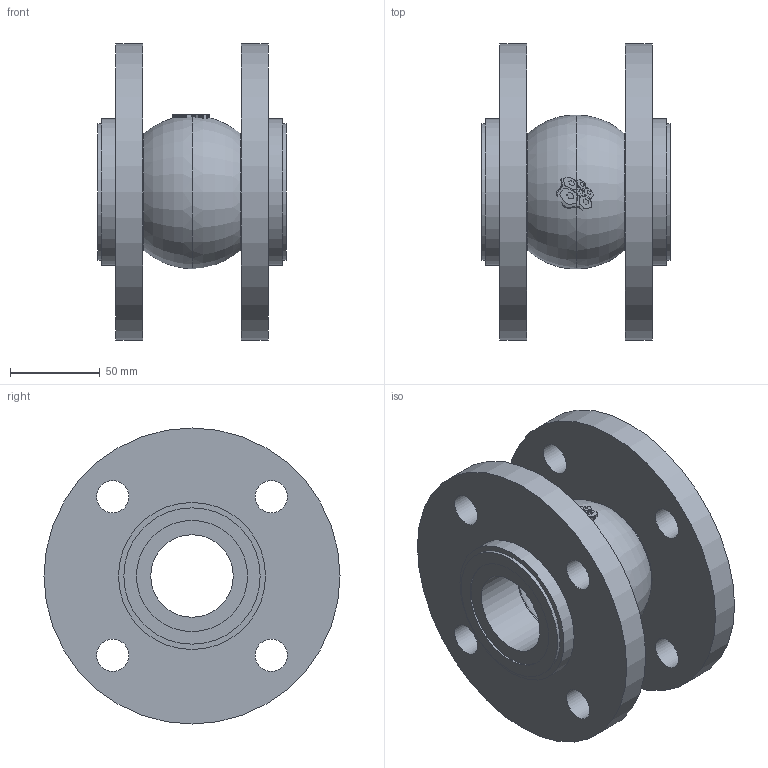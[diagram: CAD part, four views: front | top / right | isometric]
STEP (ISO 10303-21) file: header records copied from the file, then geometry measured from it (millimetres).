
FILE_DESCRIPTION(('STEP AP203'), '1');
FILE_NAME('3D_500_501-050-EPDM-FF', '', ('UNSPECIFIED'), ('UNSPECIFIED'), 'C3D Converter', 'C3D Toolkit', '');
FILE_SCHEMA(('CONFIG_CONTROL_DESIGN'));
Length unit declared in the file: millimetre
Bounding box: 105 x 165 x 165 mm (x, y, z)
Volume: 752056.3 mm3; surface area: 133737.3 mm2
Topology: 9 solids, 9 shells, 868 faces, 2546 edges, 1704 vertices
Faces by surface type: plane 839, cylinder 20, torus 9
Full cylindrical faces by diameter (mm): 18 x8, 46 x2, 62 x2, 65 x2, 76 x2, 82 x2, 165 x2
Entity records: 35250 total; most frequent: CARTESIAN_POINT 5090, ORIENTED_EDGE 5034, DIRECTION 4333, EDGE_CURVE 2517, LINE 2439, VECTOR 2439, VERTEX_POINT 1704, AXIS2_PLACEMENT_3D 947
